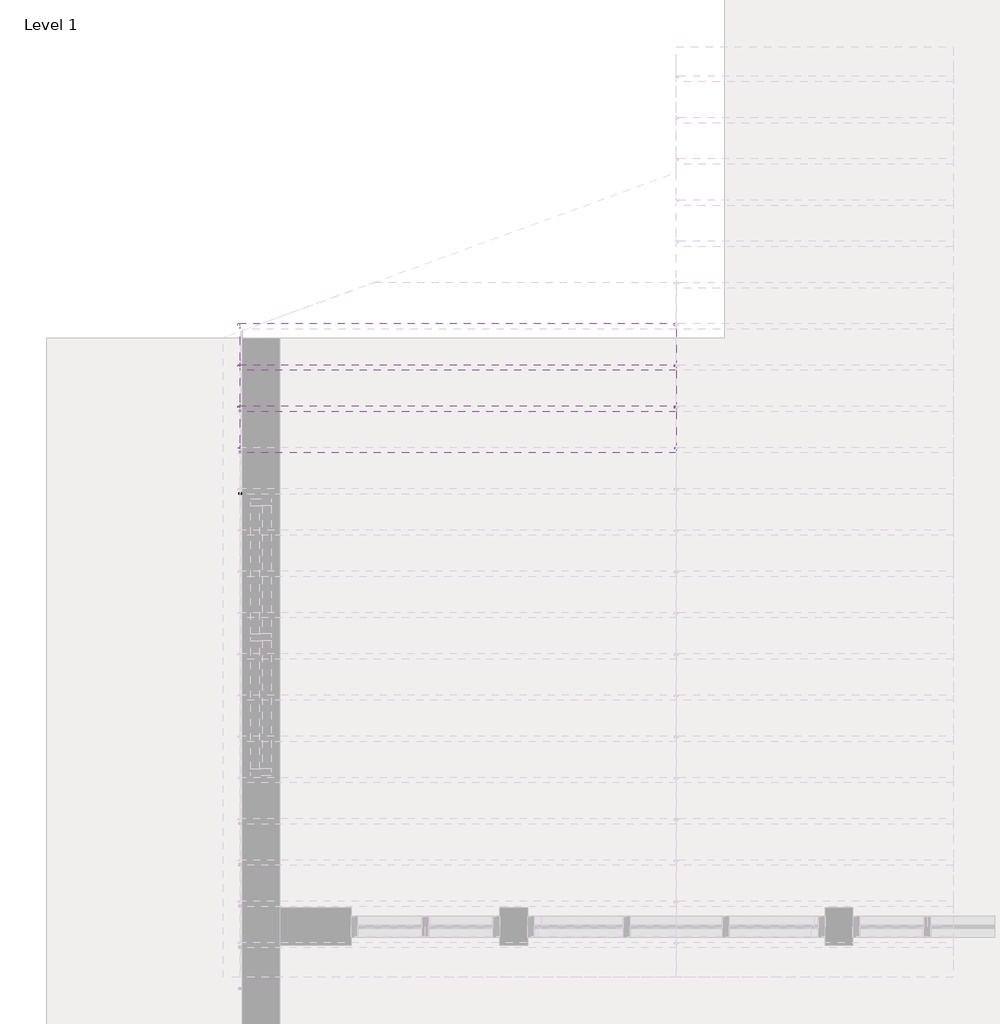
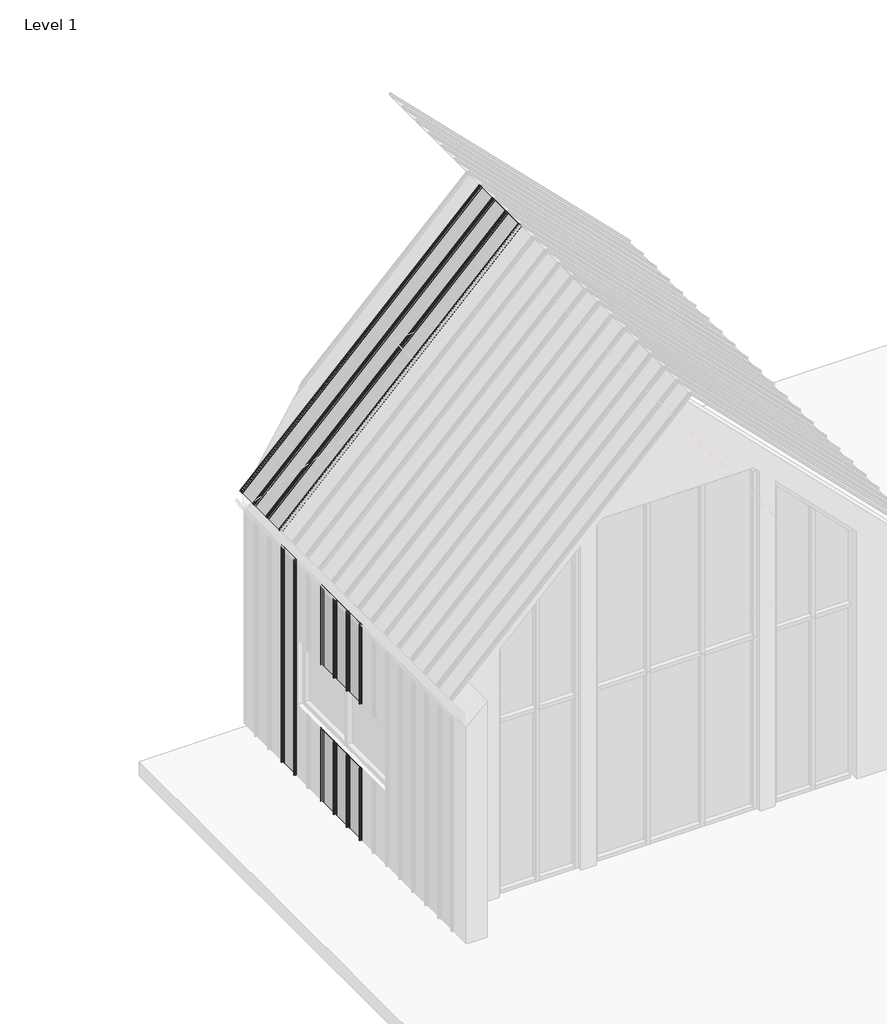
# One storey, part 4 of 24: 7 proxies.
"""IFC4 building model written with IfcOpenShell, lengths in millimetres."""

from ifc_helpers import new_model, si_unit, point, frame, frame_2d, origin, place, context, project, spatial, polyline, circle_curve, trimmed, segment, composite_curve, outline, extrude, transform, mapped, element, save
from components import aqua_slim_97a0cb55, aqua_slim_27351003

model = new_model("IFC4")

# Units and contexts
model_context = context("Model", 3, world=origin())
ifc_project = project(units=[si_unit("LENGTHUNIT", "METRE", prefix="MILLI")], contexts=[model_context])

# Site, building, storey
site = spatial("IfcSite", under=ifc_project)
building = spatial("IfcBuilding", under=site)
storey = spatial("IfcBuildingStorey", under=building, Name="Level 1", Elevation=0.0)

# Proxies
placement = place(None, origin())
element("IfcBuildingElementProxy", 1, Name="AQUAPLAST - Panel Dachowy i Elewacyjny Aqua Slim : Aqua Slim", ObjectType="AQUAPLAST - Panel Dachowy i Elewacyjny Aqua Slim : Aqua Slim", at=placement, inside=storey, context=model_context, shape_type="SweptSolid", body=[
    extrude(outline(polyline([(-8422.863183, 11088.1494801), (-8422.863183, 11315.3495304), (-8422.063183, 11315.3495304), (-8422.063183, 11088.1494801), (-8422.863183, 11088.1494801)])), frame((0.0, 0.0, 2498.0), z_axis=(0.0, 0.0, 1.0), x_axis=(1.0, 0.0, 0.0)), (0.0, 0.0, 1.0), 1099.0),
    extrude(outline(polyline([(-8422.863183, 11088.1494801), (-8422.863183, 11315.3495304), (-8422.063183, 11315.3495304), (-8422.063183, 11088.1494801), (-8422.863183, 11088.1494801)])), frame((0.0, 0.0, 600.0), z_axis=(0.0, 0.0, 1.0), x_axis=(1.0, 0.0, 0.0)), (0.0, 0.0, 1.0), 998.0),
    extrude(outline(composite_curve([segment(polyline([(-8422.063183, 11088.1494801), (-8422.8632432, 11084.6494801), (-8422.8632432, 11060.7495553)]), True, "CONTINUOUS"), segment(trimmed(circle_curve(frame_2d((-8423.363153, 11060.7495553)), 0.4999098), [point((-8422.8632432, 11060.7495553))], [point((-8423.363153, 11060.2496455))], False, "CARTESIAN"), True, "CONTINUOUS"), segment(polyline([(-8423.363153, 11060.2496455), (-8445.7635025, 11060.2496455)]), True, "CONTINUOUS"), segment(trimmed(circle_curve(frame_2d((-8445.7635025, 11059.7493222)), 0.5003233), [point((-8445.7635025, 11060.2496455))], [point((-8446.2638258, 11059.7493222))], True, "CARTESIAN"), True, "CONTINUOUS"), segment(polyline([(-8446.2638258, 11059.7493222), (-8446.2638258, 11049.2528028)]), True, "CONTINUOUS"), segment(trimmed(circle_curve(frame_2d((-8445.7625421, 11049.2528028)), 0.5012837), [point((-8446.2638258, 11049.2528028))], [point((-8445.7625421, 11048.7515191))], True, "CARTESIAN"), True, "CONTINUOUS"), segment(polyline([(-8445.7625421, 11048.7515191), (-8431.8481949, 11048.7515191)]), True, "CONTINUOUS"), segment(trimmed(circle_curve(frame_2d((-8431.8481949, 11049.6955317)), 0.9440125), [point((-8431.8481949, 11048.7515191))], [point((-8431.0110473, 11049.259248))], True, "CARTESIAN"), True, "CONTINUOUS"), segment(trimmed(circle_curve(frame_2d((-8427.4769676, 11048.7302878)), 3.5734462), [point((-8431.0110473, 11049.259248))], [point((-8423.9035214, 11048.7302878))], False, "CARTESIAN"), True, "CONTINUOUS"), segment(polyline([(-8423.9035214, 11048.7302878), (-8424.7037623, 11048.7302878)]), True, "CONTINUOUS"), segment(trimmed(circle_curve(frame_2d((-8427.4479694, 11048.7302878)), 2.7442071), [point((-8424.7037623, 11048.7302878))], [point((-8430.1921764, 11048.7302878))], True, "CARTESIAN"), True, "CONTINUOUS"), segment(trimmed(circle_curve(frame_2d((-8430.8671054, 11048.7244344)), 0.6749543), [point((-8430.1921764, 11048.7302878))], [point((-8430.8671054, 11048.0494801))], False, "CARTESIAN"), True, "CONTINUOUS"), segment(polyline([(-8430.8671054, 11048.0494801), (-8446.563183, 11048.0494801)]), True, "CONTINUOUS"), segment(trimmed(circle_curve(frame_2d((-8446.563183, 11048.5494801)), 0.5), [point((-8446.563183, 11048.0494801))], [point((-8447.063183, 11048.5494801))], False, "CARTESIAN"), True, "CONTINUOUS"), segment(polyline([(-8447.063183, 11048.5494801), (-8447.063183, 11060.5494801)]), True, "CONTINUOUS"), segment(trimmed(circle_curve(frame_2d((-8446.563183, 11060.5494801)), 0.5), [point((-8447.063183, 11060.5494801))], [point((-8446.563183, 11061.0494801))], False, "CARTESIAN"), True, "CONTINUOUS"), segment(polyline([(-8446.563183, 11061.0494801), (-8424.163183, 11061.0494801)]), True, "CONTINUOUS"), segment(trimmed(circle_curve(frame_2d((-8424.163183, 11061.5494801)), 0.5), [point((-8424.163183, 11061.0494801))], [point((-8423.663183, 11061.5494801))], True, "CARTESIAN"), True, "CONTINUOUS"), segment(polyline([(-8423.663183, 11061.5494801), (-8423.663183, 11084.6494801), (-8422.863183, 11088.1494801), (-8422.063183, 11088.1494801)]), True, "CONTINUOUS")], self_intersect=False)), frame((0.0, 0.0, 2498.0), z_axis=(0.0, 0.0, 1.0), x_axis=(1.0, 0.0, 0.0)), (0.0, 0.0, 1.0), 1099.0),
    extrude(outline(composite_curve([segment(polyline([(-8423.663183, 11084.6494801), (-8422.863183, 11088.1494801), (-8422.063183, 11088.1494801), (-8422.8632432, 11084.6494801), (-8422.8632432, 11060.7495553)]), True, "CONTINUOUS"), segment(trimmed(circle_curve(frame_2d((-8423.363153, 11060.7495553)), 0.4999098), [point((-8422.8632432, 11060.7495553))], [point((-8423.363153, 11060.2496455))], False, "CARTESIAN"), True, "CONTINUOUS"), segment(polyline([(-8423.363153, 11060.2496455), (-8445.7635025, 11060.2496455)]), True, "CONTINUOUS"), segment(trimmed(circle_curve(frame_2d((-8445.7635025, 11059.7493222)), 0.5003233), [point((-8445.7635025, 11060.2496455))], [point((-8446.2638258, 11059.7493222))], True, "CARTESIAN"), True, "CONTINUOUS"), segment(polyline([(-8446.2638258, 11059.7493222), (-8446.2638258, 11049.2528028)]), True, "CONTINUOUS"), segment(trimmed(circle_curve(frame_2d((-8445.7625421, 11049.2528028)), 0.5012837), [point((-8446.2638258, 11049.2528028))], [point((-8445.7625421, 11048.7515191))], True, "CARTESIAN"), True, "CONTINUOUS"), segment(polyline([(-8445.7625421, 11048.7515191), (-8431.8481949, 11048.7515191)]), True, "CONTINUOUS"), segment(trimmed(circle_curve(frame_2d((-8431.8481949, 11049.6955317)), 0.9440125), [point((-8431.8481949, 11048.7515191))], [point((-8431.0110473, 11049.259248))], True, "CARTESIAN"), True, "CONTINUOUS"), segment(trimmed(circle_curve(frame_2d((-8427.4769676, 11048.7302878)), 3.5734462), [point((-8431.0110473, 11049.259248))], [point((-8423.9035214, 11048.7302878))], False, "CARTESIAN"), True, "CONTINUOUS"), segment(polyline([(-8423.9035214, 11048.7302878), (-8424.7037623, 11048.7302878)]), True, "CONTINUOUS"), segment(trimmed(circle_curve(frame_2d((-8427.4479694, 11048.7302878)), 2.7442071), [point((-8424.7037623, 11048.7302878))], [point((-8430.1921764, 11048.7302878))], True, "CARTESIAN"), True, "CONTINUOUS"), segment(trimmed(circle_curve(frame_2d((-8430.8671054, 11048.7244344)), 0.6749543), [point((-8430.1921764, 11048.7302878))], [point((-8430.8671054, 11048.0494801))], False, "CARTESIAN"), True, "CONTINUOUS"), segment(polyline([(-8430.8671054, 11048.0494801), (-8446.563183, 11048.0494801)]), True, "CONTINUOUS"), segment(trimmed(circle_curve(frame_2d((-8446.563183, 11048.5494801)), 0.5), [point((-8446.563183, 11048.0494801))], [point((-8447.063183, 11048.5494801))], False, "CARTESIAN"), True, "CONTINUOUS"), segment(polyline([(-8447.063183, 11048.5494801), (-8447.063183, 11060.5494801)]), True, "CONTINUOUS"), segment(trimmed(circle_curve(frame_2d((-8446.563183, 11060.5494801)), 0.5), [point((-8447.063183, 11060.5494801))], [point((-8446.563183, 11061.0494801))], False, "CARTESIAN"), True, "CONTINUOUS"), segment(polyline([(-8446.563183, 11061.0494801), (-8424.163183, 11061.0494801)]), True, "CONTINUOUS"), segment(trimmed(circle_curve(frame_2d((-8424.163183, 11061.5494801)), 0.5), [point((-8424.163183, 11061.0494801))], [point((-8423.663183, 11061.5494801))], True, "CARTESIAN"), True, "CONTINUOUS"), segment(polyline([(-8423.663183, 11061.5494801), (-8423.663183, 11084.6494801)]), True, "CONTINUOUS")], self_intersect=False)), frame((0.0, 0.0, 600.0), z_axis=(0.0, 0.0, 1.0), x_axis=(1.0, 0.0, 0.0)), (0.0, 0.0, 1.0), 998.0),
    extrude(outline(composite_curve([segment(polyline([(-8422.863183, 11388.0494801), (-8422.063183, 11388.0494801), (-8422.063183, 11357.7217474)]), True, "CONTINUOUS"), segment(trimmed(circle_curve(frame_2d((-8422.8032039, 11357.7217474)), 0.7400208), [point((-8422.063183, 11357.7217474))], [point((-8422.6873647, 11356.9908492))], False, "CARTESIAN"), True, "CONTINUOUS"), segment(polyline([(-8422.6873647, 11356.9908492), (-8440.5435157, 11354.1608498)]), True, "CONTINUOUS"), segment(trimmed(circle_curve(frame_2d((-8440.2450447, 11352.277619)), 1.9067363), [point((-8440.5435157, 11354.1608498))], [point((-8441.1984129, 11350.626337))], True, "CARTESIAN"), True, "CONTINUOUS"), segment(polyline([(-8441.1984129, 11350.626337), (-8433.9565909, 11347.7145733)]), True, "CONTINUOUS"), segment(trimmed(circle_curve(frame_2d((-8433.3308509, 11349.2708458)), 1.6773594), [point((-8433.9565909, 11347.7145733))], [point((-8431.8145704, 11348.5536094))], True, "CARTESIAN"), True, "CONTINUOUS"), segment(trimmed(circle_curve(frame_2d((-8427.5646191, 11346.5432822)), 4.7014361), [point((-8431.8145704, 11348.5536094))], [point((-8422.863183, 11346.5432822))], False, "CARTESIAN"), True, "CONTINUOUS"), segment(polyline([(-8422.863183, 11346.5432822), (-8422.863183, 11318.8495304), (-8422.063183, 11315.3495304), (-8422.863183, 11315.3495304), (-8423.663183, 11318.8495304), (-8423.663183, 11346.7024576)]), True, "CONTINUOUS"), segment(trimmed(circle_curve(frame_2d((-8427.5299142, 11346.7024576)), 3.8667311), [point((-8423.663183, 11346.7024576))], [point((-8431.0655924, 11348.2678934))], True, "CARTESIAN"), True, "CONTINUOUS"), segment(trimmed(circle_curve(frame_2d((-8433.3308509, 11349.2708458)), 2.4773594), [point((-8431.0655924, 11348.2678934))], [point((-8434.257346, 11346.9732565))], False, "CARTESIAN"), True, "CONTINUOUS"), segment(polyline([(-8434.257346, 11346.9732565), (-8441.5984129, 11349.9335166)]), True, "CONTINUOUS"), segment(trimmed(circle_curve(frame_2d((-8440.2450447, 11352.277619)), 2.7067363), [point((-8441.5984129, 11349.9335166))], [point((-8440.8285384, 11354.920715))], False, "CARTESIAN"), True, "CONTINUOUS"), segment(polyline([(-8440.8285384, 11354.920715), (-8423.4133146, 11357.9536717)]), True, "CONTINUOUS"), segment(trimmed(circle_curve(frame_2d((-8423.5272506, 11358.6078921)), 0.6640676), [point((-8423.4133146, 11357.9536717))], [point((-8422.863183, 11358.6078921))], True, "CARTESIAN"), True, "CONTINUOUS"), segment(polyline([(-8422.863183, 11358.6078921), (-8422.863183, 11388.0494801)]), True, "CONTINUOUS")], self_intersect=False)), frame((0.0, 0.0, 2498.0), z_axis=(0.0, 0.0, 1.0), x_axis=(1.0, 0.0, 0.0)), (0.0, 0.0, 1.0), 1099.0),
    extrude(outline(composite_curve([segment(polyline([(-8422.863183, 11388.0494801), (-8422.063183, 11388.0494801), (-8422.063183, 11357.7217474)]), True, "CONTINUOUS"), segment(trimmed(circle_curve(frame_2d((-8422.8032039, 11357.7217474)), 0.7400208), [point((-8422.063183, 11357.7217474))], [point((-8422.6873647, 11356.9908492))], False, "CARTESIAN"), True, "CONTINUOUS"), segment(polyline([(-8422.6873647, 11356.9908492), (-8440.5435157, 11354.1608498)]), True, "CONTINUOUS"), segment(trimmed(circle_curve(frame_2d((-8440.2450447, 11352.277619)), 1.9067363), [point((-8440.5435157, 11354.1608498))], [point((-8441.1984129, 11350.626337))], True, "CARTESIAN"), True, "CONTINUOUS"), segment(polyline([(-8441.1984129, 11350.626337), (-8433.9565909, 11347.7145733)]), True, "CONTINUOUS"), segment(trimmed(circle_curve(frame_2d((-8433.3308509, 11349.2708458)), 1.6773594), [point((-8433.9565909, 11347.7145733))], [point((-8431.8145704, 11348.5536094))], True, "CARTESIAN"), True, "CONTINUOUS"), segment(trimmed(circle_curve(frame_2d((-8427.5646191, 11346.5432822)), 4.7014361), [point((-8431.8145704, 11348.5536094))], [point((-8422.863183, 11346.5432822))], False, "CARTESIAN"), True, "CONTINUOUS"), segment(polyline([(-8422.863183, 11346.5432822), (-8422.863183, 11318.8495304), (-8422.063183, 11315.3495304), (-8422.863183, 11315.3495304), (-8423.663183, 11318.8495304), (-8423.663183, 11346.7024576)]), True, "CONTINUOUS"), segment(trimmed(circle_curve(frame_2d((-8427.5299142, 11346.7024576)), 3.8667311), [point((-8423.663183, 11346.7024576))], [point((-8431.0655924, 11348.2678934))], True, "CARTESIAN"), True, "CONTINUOUS"), segment(trimmed(circle_curve(frame_2d((-8433.3308509, 11349.2708458)), 2.4773594), [point((-8431.0655924, 11348.2678934))], [point((-8434.257346, 11346.9732565))], False, "CARTESIAN"), True, "CONTINUOUS"), segment(polyline([(-8434.257346, 11346.9732565), (-8441.5984129, 11349.9335166)]), True, "CONTINUOUS"), segment(trimmed(circle_curve(frame_2d((-8440.2450447, 11352.277619)), 2.7067363), [point((-8441.5984129, 11349.9335166))], [point((-8440.8285384, 11354.920715))], False, "CARTESIAN"), True, "CONTINUOUS"), segment(polyline([(-8440.8285384, 11354.920715), (-8423.4133146, 11357.9536717)]), True, "CONTINUOUS"), segment(trimmed(circle_curve(frame_2d((-8423.5272506, 11358.6078921)), 0.6640676), [point((-8423.4133146, 11357.9536717))], [point((-8422.863183, 11358.6078921))], True, "CARTESIAN"), True, "CONTINUOUS"), segment(polyline([(-8422.863183, 11358.6078921), (-8422.863183, 11388.0494801)]), True, "CONTINUOUS")], self_intersect=False)), frame((0.0, 0.0, 600.0), z_axis=(0.0, 0.0, 1.0), x_axis=(1.0, 0.0, 0.0)), (0.0, 0.0, 1.0), 998.0),
])
element("IfcBuildingElementProxy", 2, Name="AQUAPLAST - Panel Dachowy i Elewacyjny Aqua Slim : Aqua Slim", ObjectType="AQUAPLAST - Panel Dachowy i Elewacyjny Aqua Slim : Aqua Slim", at=placement, inside=storey, context=model_context, shape_type="SweptSolid", body=[
    extrude(outline(polyline([(-8422.863183, 11386.1494801), (-8422.863183, 11613.3495304), (-8422.063183, 11613.3495304), (-8422.063183, 11386.1494801), (-8422.863183, 11386.1494801)])), frame((0.0, 0.0, 2498.0), z_axis=(0.0, 0.0, 1.0), x_axis=(1.0, 0.0, 0.0)), (0.0, 0.0, 1.0), 1099.0),
    extrude(outline(polyline([(-8422.863183, 11386.1494801), (-8422.863183, 11613.3495304), (-8422.063183, 11613.3495304), (-8422.063183, 11386.1494801), (-8422.863183, 11386.1494801)])), frame((0.0, 0.0, 600.0), z_axis=(0.0, 0.0, 1.0), x_axis=(1.0, 0.0, 0.0)), (0.0, 0.0, 1.0), 998.0),
    extrude(outline(composite_curve([segment(polyline([(-8422.063183, 11386.1494801), (-8422.8632432, 11382.6494801), (-8422.8632432, 11358.7495553)]), True, "CONTINUOUS"), segment(trimmed(circle_curve(frame_2d((-8423.363153, 11358.7495553)), 0.4999098), [point((-8422.8632432, 11358.7495553))], [point((-8423.363153, 11358.2496455))], False, "CARTESIAN"), True, "CONTINUOUS"), segment(polyline([(-8423.363153, 11358.2496455), (-8445.7635025, 11358.2496455)]), True, "CONTINUOUS"), segment(trimmed(circle_curve(frame_2d((-8445.7635025, 11357.7493222)), 0.5003233), [point((-8445.7635025, 11358.2496455))], [point((-8446.2638258, 11357.7493222))], True, "CARTESIAN"), True, "CONTINUOUS"), segment(polyline([(-8446.2638258, 11357.7493222), (-8446.2638258, 11347.2528028)]), True, "CONTINUOUS"), segment(trimmed(circle_curve(frame_2d((-8445.7625421, 11347.2528028)), 0.5012837), [point((-8446.2638258, 11347.2528028))], [point((-8445.7625421, 11346.7515191))], True, "CARTESIAN"), True, "CONTINUOUS"), segment(polyline([(-8445.7625421, 11346.7515191), (-8431.8481949, 11346.7515191)]), True, "CONTINUOUS"), segment(trimmed(circle_curve(frame_2d((-8431.8481949, 11347.6955317)), 0.9440125), [point((-8431.8481949, 11346.7515191))], [point((-8431.0110473, 11347.259248))], True, "CARTESIAN"), True, "CONTINUOUS"), segment(trimmed(circle_curve(frame_2d((-8427.4769676, 11346.7302878)), 3.5734462), [point((-8431.0110473, 11347.259248))], [point((-8423.9035214, 11346.7302878))], False, "CARTESIAN"), True, "CONTINUOUS"), segment(polyline([(-8423.9035214, 11346.7302878), (-8424.7037623, 11346.7302878)]), True, "CONTINUOUS"), segment(trimmed(circle_curve(frame_2d((-8427.4479694, 11346.7302878)), 2.7442071), [point((-8424.7037623, 11346.7302878))], [point((-8430.1921764, 11346.7302878))], True, "CARTESIAN"), True, "CONTINUOUS"), segment(trimmed(circle_curve(frame_2d((-8430.8671054, 11346.7244344)), 0.6749543), [point((-8430.1921764, 11346.7302878))], [point((-8430.8671054, 11346.0494801))], False, "CARTESIAN"), True, "CONTINUOUS"), segment(polyline([(-8430.8671054, 11346.0494801), (-8446.563183, 11346.0494801)]), True, "CONTINUOUS"), segment(trimmed(circle_curve(frame_2d((-8446.563183, 11346.5494801)), 0.5), [point((-8446.563183, 11346.0494801))], [point((-8447.063183, 11346.5494801))], False, "CARTESIAN"), True, "CONTINUOUS"), segment(polyline([(-8447.063183, 11346.5494801), (-8447.063183, 11358.5494801)]), True, "CONTINUOUS"), segment(trimmed(circle_curve(frame_2d((-8446.563183, 11358.5494801)), 0.5), [point((-8447.063183, 11358.5494801))], [point((-8446.563183, 11359.0494801))], False, "CARTESIAN"), True, "CONTINUOUS"), segment(polyline([(-8446.563183, 11359.0494801), (-8424.163183, 11359.0494801)]), True, "CONTINUOUS"), segment(trimmed(circle_curve(frame_2d((-8424.163183, 11359.5494801)), 0.5), [point((-8424.163183, 11359.0494801))], [point((-8423.663183, 11359.5494801))], True, "CARTESIAN"), True, "CONTINUOUS"), segment(polyline([(-8423.663183, 11359.5494801), (-8423.663183, 11382.6494801), (-8422.863183, 11386.1494801), (-8422.063183, 11386.1494801)]), True, "CONTINUOUS")], self_intersect=False)), frame((0.0, 0.0, 2498.0), z_axis=(0.0, 0.0, 1.0), x_axis=(1.0, 0.0, 0.0)), (0.0, 0.0, 1.0), 1099.0),
    extrude(outline(composite_curve([segment(polyline([(-8423.663183, 11382.6494801), (-8422.863183, 11386.1494801), (-8422.063183, 11386.1494801), (-8422.8632432, 11382.6494801), (-8422.8632432, 11358.7495553)]), True, "CONTINUOUS"), segment(trimmed(circle_curve(frame_2d((-8423.363153, 11358.7495553)), 0.4999098), [point((-8422.8632432, 11358.7495553))], [point((-8423.363153, 11358.2496455))], False, "CARTESIAN"), True, "CONTINUOUS"), segment(polyline([(-8423.363153, 11358.2496455), (-8445.7635025, 11358.2496455)]), True, "CONTINUOUS"), segment(trimmed(circle_curve(frame_2d((-8445.7635025, 11357.7493222)), 0.5003233), [point((-8445.7635025, 11358.2496455))], [point((-8446.2638258, 11357.7493222))], True, "CARTESIAN"), True, "CONTINUOUS"), segment(polyline([(-8446.2638258, 11357.7493222), (-8446.2638258, 11347.2528028)]), True, "CONTINUOUS"), segment(trimmed(circle_curve(frame_2d((-8445.7625421, 11347.2528028)), 0.5012837), [point((-8446.2638258, 11347.2528028))], [point((-8445.7625421, 11346.7515191))], True, "CARTESIAN"), True, "CONTINUOUS"), segment(polyline([(-8445.7625421, 11346.7515191), (-8431.8481949, 11346.7515191)]), True, "CONTINUOUS"), segment(trimmed(circle_curve(frame_2d((-8431.8481949, 11347.6955317)), 0.9440125), [point((-8431.8481949, 11346.7515191))], [point((-8431.0110473, 11347.259248))], True, "CARTESIAN"), True, "CONTINUOUS"), segment(trimmed(circle_curve(frame_2d((-8427.4769676, 11346.7302878)), 3.5734462), [point((-8431.0110473, 11347.259248))], [point((-8423.9035214, 11346.7302878))], False, "CARTESIAN"), True, "CONTINUOUS"), segment(polyline([(-8423.9035214, 11346.7302878), (-8424.7037623, 11346.7302878)]), True, "CONTINUOUS"), segment(trimmed(circle_curve(frame_2d((-8427.4479694, 11346.7302878)), 2.7442071), [point((-8424.7037623, 11346.7302878))], [point((-8430.1921764, 11346.7302878))], True, "CARTESIAN"), True, "CONTINUOUS"), segment(trimmed(circle_curve(frame_2d((-8430.8671054, 11346.7244344)), 0.6749543), [point((-8430.1921764, 11346.7302878))], [point((-8430.8671054, 11346.0494801))], False, "CARTESIAN"), True, "CONTINUOUS"), segment(polyline([(-8430.8671054, 11346.0494801), (-8446.563183, 11346.0494801)]), True, "CONTINUOUS"), segment(trimmed(circle_curve(frame_2d((-8446.563183, 11346.5494801)), 0.5), [point((-8446.563183, 11346.0494801))], [point((-8447.063183, 11346.5494801))], False, "CARTESIAN"), True, "CONTINUOUS"), segment(polyline([(-8447.063183, 11346.5494801), (-8447.063183, 11358.5494801)]), True, "CONTINUOUS"), segment(trimmed(circle_curve(frame_2d((-8446.563183, 11358.5494801)), 0.5), [point((-8447.063183, 11358.5494801))], [point((-8446.563183, 11359.0494801))], False, "CARTESIAN"), True, "CONTINUOUS"), segment(polyline([(-8446.563183, 11359.0494801), (-8424.163183, 11359.0494801)]), True, "CONTINUOUS"), segment(trimmed(circle_curve(frame_2d((-8424.163183, 11359.5494801)), 0.5), [point((-8424.163183, 11359.0494801))], [point((-8423.663183, 11359.5494801))], True, "CARTESIAN"), True, "CONTINUOUS"), segment(polyline([(-8423.663183, 11359.5494801), (-8423.663183, 11382.6494801)]), True, "CONTINUOUS")], self_intersect=False)), frame((0.0, 0.0, 600.0), z_axis=(0.0, 0.0, 1.0), x_axis=(1.0, 0.0, 0.0)), (0.0, 0.0, 1.0), 998.0),
    extrude(outline(composite_curve([segment(polyline([(-8422.863183, 11686.0494801), (-8422.063183, 11686.0494801), (-8422.063183, 11655.7217474)]), True, "CONTINUOUS"), segment(trimmed(circle_curve(frame_2d((-8422.8032039, 11655.7217474)), 0.7400208), [point((-8422.063183, 11655.7217474))], [point((-8422.6873647, 11654.9908492))], False, "CARTESIAN"), True, "CONTINUOUS"), segment(polyline([(-8422.6873647, 11654.9908492), (-8440.5435157, 11652.1608498)]), True, "CONTINUOUS"), segment(trimmed(circle_curve(frame_2d((-8440.2450447, 11650.277619)), 1.9067363), [point((-8440.5435157, 11652.1608498))], [point((-8441.1984129, 11648.626337))], True, "CARTESIAN"), True, "CONTINUOUS"), segment(polyline([(-8441.1984129, 11648.626337), (-8433.9565909, 11645.7145733)]), True, "CONTINUOUS"), segment(trimmed(circle_curve(frame_2d((-8433.3308509, 11647.2708458)), 1.6773594), [point((-8433.9565909, 11645.7145733))], [point((-8431.8145704, 11646.5536094))], True, "CARTESIAN"), True, "CONTINUOUS"), segment(trimmed(circle_curve(frame_2d((-8427.5646191, 11644.5432822)), 4.7014361), [point((-8431.8145704, 11646.5536094))], [point((-8422.863183, 11644.5432822))], False, "CARTESIAN"), True, "CONTINUOUS"), segment(polyline([(-8422.863183, 11644.5432822), (-8422.863183, 11616.8495304), (-8422.063183, 11613.3495304), (-8422.863183, 11613.3495304), (-8423.663183, 11616.8495304), (-8423.663183, 11644.7024576)]), True, "CONTINUOUS"), segment(trimmed(circle_curve(frame_2d((-8427.5299142, 11644.7024576)), 3.8667311), [point((-8423.663183, 11644.7024576))], [point((-8431.0655924, 11646.2678934))], True, "CARTESIAN"), True, "CONTINUOUS"), segment(trimmed(circle_curve(frame_2d((-8433.3308509, 11647.2708458)), 2.4773594), [point((-8431.0655924, 11646.2678934))], [point((-8434.257346, 11644.9732565))], False, "CARTESIAN"), True, "CONTINUOUS"), segment(polyline([(-8434.257346, 11644.9732565), (-8441.5984129, 11647.9335166)]), True, "CONTINUOUS"), segment(trimmed(circle_curve(frame_2d((-8440.2450447, 11650.277619)), 2.7067363), [point((-8441.5984129, 11647.9335166))], [point((-8440.8285384, 11652.920715))], False, "CARTESIAN"), True, "CONTINUOUS"), segment(polyline([(-8440.8285384, 11652.920715), (-8423.4133146, 11655.9536717)]), True, "CONTINUOUS"), segment(trimmed(circle_curve(frame_2d((-8423.5272506, 11656.6078921)), 0.6640676), [point((-8423.4133146, 11655.9536717))], [point((-8422.863183, 11656.6078921))], True, "CARTESIAN"), True, "CONTINUOUS"), segment(polyline([(-8422.863183, 11656.6078921), (-8422.863183, 11686.0494801)]), True, "CONTINUOUS")], self_intersect=False)), frame((0.0, 0.0, 2498.0), z_axis=(0.0, 0.0, 1.0), x_axis=(1.0, 0.0, 0.0)), (0.0, 0.0, 1.0), 1099.0),
    extrude(outline(composite_curve([segment(polyline([(-8422.863183, 11686.0494801), (-8422.063183, 11686.0494801), (-8422.063183, 11655.7217474)]), True, "CONTINUOUS"), segment(trimmed(circle_curve(frame_2d((-8422.8032039, 11655.7217474)), 0.7400208), [point((-8422.063183, 11655.7217474))], [point((-8422.6873647, 11654.9908492))], False, "CARTESIAN"), True, "CONTINUOUS"), segment(polyline([(-8422.6873647, 11654.9908492), (-8440.5435157, 11652.1608498)]), True, "CONTINUOUS"), segment(trimmed(circle_curve(frame_2d((-8440.2450447, 11650.277619)), 1.9067363), [point((-8440.5435157, 11652.1608498))], [point((-8441.1984129, 11648.626337))], True, "CARTESIAN"), True, "CONTINUOUS"), segment(polyline([(-8441.1984129, 11648.626337), (-8433.9565909, 11645.7145733)]), True, "CONTINUOUS"), segment(trimmed(circle_curve(frame_2d((-8433.3308509, 11647.2708458)), 1.6773594), [point((-8433.9565909, 11645.7145733))], [point((-8431.8145704, 11646.5536094))], True, "CARTESIAN"), True, "CONTINUOUS"), segment(trimmed(circle_curve(frame_2d((-8427.5646191, 11644.5432822)), 4.7014361), [point((-8431.8145704, 11646.5536094))], [point((-8422.863183, 11644.5432822))], False, "CARTESIAN"), True, "CONTINUOUS"), segment(polyline([(-8422.863183, 11644.5432822), (-8422.863183, 11616.8495304), (-8422.063183, 11613.3495304), (-8422.863183, 11613.3495304), (-8423.663183, 11616.8495304), (-8423.663183, 11644.7024576)]), True, "CONTINUOUS"), segment(trimmed(circle_curve(frame_2d((-8427.5299142, 11644.7024576)), 3.8667311), [point((-8423.663183, 11644.7024576))], [point((-8431.0655924, 11646.2678934))], True, "CARTESIAN"), True, "CONTINUOUS"), segment(trimmed(circle_curve(frame_2d((-8433.3308509, 11647.2708458)), 2.4773594), [point((-8431.0655924, 11646.2678934))], [point((-8434.257346, 11644.9732565))], False, "CARTESIAN"), True, "CONTINUOUS"), segment(polyline([(-8434.257346, 11644.9732565), (-8441.5984129, 11647.9335166)]), True, "CONTINUOUS"), segment(trimmed(circle_curve(frame_2d((-8440.2450447, 11650.277619)), 2.7067363), [point((-8441.5984129, 11647.9335166))], [point((-8440.8285384, 11652.920715))], False, "CARTESIAN"), True, "CONTINUOUS"), segment(polyline([(-8440.8285384, 11652.920715), (-8423.4133146, 11655.9536717)]), True, "CONTINUOUS"), segment(trimmed(circle_curve(frame_2d((-8423.5272506, 11656.6078921)), 0.6640676), [point((-8423.4133146, 11655.9536717))], [point((-8422.863183, 11656.6078921))], True, "CARTESIAN"), True, "CONTINUOUS"), segment(polyline([(-8422.863183, 11656.6078921), (-8422.863183, 11686.0494801)]), True, "CONTINUOUS")], self_intersect=False)), frame((0.0, 0.0, 600.0), z_axis=(0.0, 0.0, 1.0), x_axis=(1.0, 0.0, 0.0)), (0.0, 0.0, 1.0), 998.0),
])
element("IfcBuildingElementProxy", 3, Name="AQUAPLAST - Panel Dachowy i Elewacyjny Aqua Slim : Aqua Slim", ObjectType="AQUAPLAST - Panel Dachowy i Elewacyjny Aqua Slim : Aqua Slim", at=placement, inside=storey, context=model_context, shape_type="SweptSolid", body=[
    extrude(outline(polyline([(-8422.863183, 11684.1494801), (-8422.863183, 11911.3495304), (-8422.063183, 11911.3495304), (-8422.063183, 11684.1494801), (-8422.863183, 11684.1494801)])), frame((0.0, 0.0, 2498.0), z_axis=(0.0, 0.0, 1.0), x_axis=(1.0, 0.0, 0.0)), (0.0, 0.0, 1.0), 1099.0),
    extrude(outline(polyline([(-8422.863183, 11684.1494801), (-8422.863183, 11911.3495304), (-8422.063183, 11911.3495304), (-8422.063183, 11684.1494801), (-8422.863183, 11684.1494801)])), frame((0.0, 0.0, 600.0), z_axis=(0.0, 0.0, 1.0), x_axis=(1.0, 0.0, 0.0)), (0.0, 0.0, 1.0), 998.0),
    extrude(outline(composite_curve([segment(polyline([(-8422.063183, 11684.1494801), (-8422.8632432, 11680.6494801), (-8422.8632432, 11656.7495553)]), True, "CONTINUOUS"), segment(trimmed(circle_curve(frame_2d((-8423.363153, 11656.7495553)), 0.4999098), [point((-8422.8632432, 11656.7495553))], [point((-8423.363153, 11656.2496455))], False, "CARTESIAN"), True, "CONTINUOUS"), segment(polyline([(-8423.363153, 11656.2496455), (-8445.7635025, 11656.2496455)]), True, "CONTINUOUS"), segment(trimmed(circle_curve(frame_2d((-8445.7635025, 11655.7493222)), 0.5003233), [point((-8445.7635025, 11656.2496455))], [point((-8446.2638258, 11655.7493222))], True, "CARTESIAN"), True, "CONTINUOUS"), segment(polyline([(-8446.2638258, 11655.7493222), (-8446.2638258, 11645.2528028)]), True, "CONTINUOUS"), segment(trimmed(circle_curve(frame_2d((-8445.7625421, 11645.2528028)), 0.5012837), [point((-8446.2638258, 11645.2528028))], [point((-8445.7625421, 11644.7515191))], True, "CARTESIAN"), True, "CONTINUOUS"), segment(polyline([(-8445.7625421, 11644.7515191), (-8431.8481949, 11644.7515191)]), True, "CONTINUOUS"), segment(trimmed(circle_curve(frame_2d((-8431.8481949, 11645.6955317)), 0.9440125), [point((-8431.8481949, 11644.7515191))], [point((-8431.0110473, 11645.259248))], True, "CARTESIAN"), True, "CONTINUOUS"), segment(trimmed(circle_curve(frame_2d((-8427.4769676, 11644.7302878)), 3.5734462), [point((-8431.0110473, 11645.259248))], [point((-8423.9035214, 11644.7302878))], False, "CARTESIAN"), True, "CONTINUOUS"), segment(polyline([(-8423.9035214, 11644.7302878), (-8424.7037623, 11644.7302878)]), True, "CONTINUOUS"), segment(trimmed(circle_curve(frame_2d((-8427.4479694, 11644.7302878)), 2.7442071), [point((-8424.7037623, 11644.7302878))], [point((-8430.1921764, 11644.7302878))], True, "CARTESIAN"), True, "CONTINUOUS"), segment(trimmed(circle_curve(frame_2d((-8430.8671054, 11644.7244344)), 0.6749543), [point((-8430.1921764, 11644.7302878))], [point((-8430.8671054, 11644.0494801))], False, "CARTESIAN"), True, "CONTINUOUS"), segment(polyline([(-8430.8671054, 11644.0494801), (-8446.563183, 11644.0494801)]), True, "CONTINUOUS"), segment(trimmed(circle_curve(frame_2d((-8446.563183, 11644.5494801)), 0.5), [point((-8446.563183, 11644.0494801))], [point((-8447.063183, 11644.5494801))], False, "CARTESIAN"), True, "CONTINUOUS"), segment(polyline([(-8447.063183, 11644.5494801), (-8447.063183, 11656.5494801)]), True, "CONTINUOUS"), segment(trimmed(circle_curve(frame_2d((-8446.563183, 11656.5494801)), 0.5), [point((-8447.063183, 11656.5494801))], [point((-8446.563183, 11657.0494801))], False, "CARTESIAN"), True, "CONTINUOUS"), segment(polyline([(-8446.563183, 11657.0494801), (-8424.163183, 11657.0494801)]), True, "CONTINUOUS"), segment(trimmed(circle_curve(frame_2d((-8424.163183, 11657.5494801)), 0.5), [point((-8424.163183, 11657.0494801))], [point((-8423.663183, 11657.5494801))], True, "CARTESIAN"), True, "CONTINUOUS"), segment(polyline([(-8423.663183, 11657.5494801), (-8423.663183, 11680.6494801), (-8422.863183, 11684.1494801), (-8422.063183, 11684.1494801)]), True, "CONTINUOUS")], self_intersect=False)), frame((0.0, 0.0, 2498.0), z_axis=(0.0, 0.0, 1.0), x_axis=(1.0, 0.0, 0.0)), (0.0, 0.0, 1.0), 1099.0),
    extrude(outline(composite_curve([segment(polyline([(-8423.663183, 11680.6494801), (-8422.863183, 11684.1494801), (-8422.063183, 11684.1494801), (-8422.8632432, 11680.6494801), (-8422.8632432, 11656.7495553)]), True, "CONTINUOUS"), segment(trimmed(circle_curve(frame_2d((-8423.363153, 11656.7495553)), 0.4999098), [point((-8422.8632432, 11656.7495553))], [point((-8423.363153, 11656.2496455))], False, "CARTESIAN"), True, "CONTINUOUS"), segment(polyline([(-8423.363153, 11656.2496455), (-8445.7635025, 11656.2496455)]), True, "CONTINUOUS"), segment(trimmed(circle_curve(frame_2d((-8445.7635025, 11655.7493222)), 0.5003233), [point((-8445.7635025, 11656.2496455))], [point((-8446.2638258, 11655.7493222))], True, "CARTESIAN"), True, "CONTINUOUS"), segment(polyline([(-8446.2638258, 11655.7493222), (-8446.2638258, 11645.2528028)]), True, "CONTINUOUS"), segment(trimmed(circle_curve(frame_2d((-8445.7625421, 11645.2528028)), 0.5012837), [point((-8446.2638258, 11645.2528028))], [point((-8445.7625421, 11644.7515191))], True, "CARTESIAN"), True, "CONTINUOUS"), segment(polyline([(-8445.7625421, 11644.7515191), (-8431.8481949, 11644.7515191)]), True, "CONTINUOUS"), segment(trimmed(circle_curve(frame_2d((-8431.8481949, 11645.6955317)), 0.9440125), [point((-8431.8481949, 11644.7515191))], [point((-8431.0110473, 11645.259248))], True, "CARTESIAN"), True, "CONTINUOUS"), segment(trimmed(circle_curve(frame_2d((-8427.4769676, 11644.7302878)), 3.5734462), [point((-8431.0110473, 11645.259248))], [point((-8423.9035214, 11644.7302878))], False, "CARTESIAN"), True, "CONTINUOUS"), segment(polyline([(-8423.9035214, 11644.7302878), (-8424.7037623, 11644.7302878)]), True, "CONTINUOUS"), segment(trimmed(circle_curve(frame_2d((-8427.4479694, 11644.7302878)), 2.7442071), [point((-8424.7037623, 11644.7302878))], [point((-8430.1921764, 11644.7302878))], True, "CARTESIAN"), True, "CONTINUOUS"), segment(trimmed(circle_curve(frame_2d((-8430.8671054, 11644.7244344)), 0.6749543), [point((-8430.1921764, 11644.7302878))], [point((-8430.8671054, 11644.0494801))], False, "CARTESIAN"), True, "CONTINUOUS"), segment(polyline([(-8430.8671054, 11644.0494801), (-8446.563183, 11644.0494801)]), True, "CONTINUOUS"), segment(trimmed(circle_curve(frame_2d((-8446.563183, 11644.5494801)), 0.5), [point((-8446.563183, 11644.0494801))], [point((-8447.063183, 11644.5494801))], False, "CARTESIAN"), True, "CONTINUOUS"), segment(polyline([(-8447.063183, 11644.5494801), (-8447.063183, 11656.5494801)]), True, "CONTINUOUS"), segment(trimmed(circle_curve(frame_2d((-8446.563183, 11656.5494801)), 0.5), [point((-8447.063183, 11656.5494801))], [point((-8446.563183, 11657.0494801))], False, "CARTESIAN"), True, "CONTINUOUS"), segment(polyline([(-8446.563183, 11657.0494801), (-8424.163183, 11657.0494801)]), True, "CONTINUOUS"), segment(trimmed(circle_curve(frame_2d((-8424.163183, 11657.5494801)), 0.5), [point((-8424.163183, 11657.0494801))], [point((-8423.663183, 11657.5494801))], True, "CARTESIAN"), True, "CONTINUOUS"), segment(polyline([(-8423.663183, 11657.5494801), (-8423.663183, 11680.6494801)]), True, "CONTINUOUS")], self_intersect=False)), frame((0.0, 0.0, 600.0), z_axis=(0.0, 0.0, 1.0), x_axis=(1.0, 0.0, 0.0)), (0.0, 0.0, 1.0), 998.0),
    extrude(outline(composite_curve([segment(polyline([(-8422.863183, 11984.0494801), (-8422.063183, 11984.0494801), (-8422.063183, 11953.7217474)]), True, "CONTINUOUS"), segment(trimmed(circle_curve(frame_2d((-8422.8032039, 11953.7217474)), 0.7400208), [point((-8422.063183, 11953.7217474))], [point((-8422.6873647, 11952.9908492))], False, "CARTESIAN"), True, "CONTINUOUS"), segment(polyline([(-8422.6873647, 11952.9908492), (-8440.5435157, 11950.1608498)]), True, "CONTINUOUS"), segment(trimmed(circle_curve(frame_2d((-8440.2450447, 11948.277619)), 1.9067363), [point((-8440.5435157, 11950.1608498))], [point((-8441.1984129, 11946.626337))], True, "CARTESIAN"), True, "CONTINUOUS"), segment(polyline([(-8441.1984129, 11946.626337), (-8433.9565909, 11943.7145733)]), True, "CONTINUOUS"), segment(trimmed(circle_curve(frame_2d((-8433.3308509, 11945.2708458)), 1.6773594), [point((-8433.9565909, 11943.7145733))], [point((-8431.8145704, 11944.5536094))], True, "CARTESIAN"), True, "CONTINUOUS"), segment(trimmed(circle_curve(frame_2d((-8427.5646191, 11942.5432822)), 4.7014361), [point((-8431.8145704, 11944.5536094))], [point((-8422.863183, 11942.5432822))], False, "CARTESIAN"), True, "CONTINUOUS"), segment(polyline([(-8422.863183, 11942.5432822), (-8422.863183, 11914.8495304), (-8422.063183, 11911.3495304), (-8422.863183, 11911.3495304), (-8423.663183, 11914.8495304), (-8423.663183, 11942.7024576)]), True, "CONTINUOUS"), segment(trimmed(circle_curve(frame_2d((-8427.5299142, 11942.7024576)), 3.8667311), [point((-8423.663183, 11942.7024576))], [point((-8431.0655924, 11944.2678934))], True, "CARTESIAN"), True, "CONTINUOUS"), segment(trimmed(circle_curve(frame_2d((-8433.3308509, 11945.2708458)), 2.4773594), [point((-8431.0655924, 11944.2678934))], [point((-8434.257346, 11942.9732565))], False, "CARTESIAN"), True, "CONTINUOUS"), segment(polyline([(-8434.257346, 11942.9732565), (-8441.5984129, 11945.9335166)]), True, "CONTINUOUS"), segment(trimmed(circle_curve(frame_2d((-8440.2450447, 11948.277619)), 2.7067363), [point((-8441.5984129, 11945.9335166))], [point((-8440.8285384, 11950.920715))], False, "CARTESIAN"), True, "CONTINUOUS"), segment(polyline([(-8440.8285384, 11950.920715), (-8423.4133146, 11953.9536717)]), True, "CONTINUOUS"), segment(trimmed(circle_curve(frame_2d((-8423.5272506, 11954.6078921)), 0.6640676), [point((-8423.4133146, 11953.9536717))], [point((-8422.863183, 11954.6078921))], True, "CARTESIAN"), True, "CONTINUOUS"), segment(polyline([(-8422.863183, 11954.6078921), (-8422.863183, 11984.0494801)]), True, "CONTINUOUS")], self_intersect=False)), frame((0.0, 0.0, 2498.0), z_axis=(0.0, 0.0, 1.0), x_axis=(1.0, 0.0, 0.0)), (0.0, 0.0, 1.0), 1099.0),
    extrude(outline(composite_curve([segment(polyline([(-8422.863183, 11984.0494801), (-8422.063183, 11984.0494801), (-8422.063183, 11953.7217474)]), True, "CONTINUOUS"), segment(trimmed(circle_curve(frame_2d((-8422.8032039, 11953.7217474)), 0.7400208), [point((-8422.063183, 11953.7217474))], [point((-8422.6873647, 11952.9908492))], False, "CARTESIAN"), True, "CONTINUOUS"), segment(polyline([(-8422.6873647, 11952.9908492), (-8440.5435157, 11950.1608498)]), True, "CONTINUOUS"), segment(trimmed(circle_curve(frame_2d((-8440.2450447, 11948.277619)), 1.9067363), [point((-8440.5435157, 11950.1608498))], [point((-8441.1984129, 11946.626337))], True, "CARTESIAN"), True, "CONTINUOUS"), segment(polyline([(-8441.1984129, 11946.626337), (-8433.9565909, 11943.7145733)]), True, "CONTINUOUS"), segment(trimmed(circle_curve(frame_2d((-8433.3308509, 11945.2708458)), 1.6773594), [point((-8433.9565909, 11943.7145733))], [point((-8431.8145704, 11944.5536094))], True, "CARTESIAN"), True, "CONTINUOUS"), segment(trimmed(circle_curve(frame_2d((-8427.5646191, 11942.5432822)), 4.7014361), [point((-8431.8145704, 11944.5536094))], [point((-8422.863183, 11942.5432822))], False, "CARTESIAN"), True, "CONTINUOUS"), segment(polyline([(-8422.863183, 11942.5432822), (-8422.863183, 11914.8495304), (-8422.063183, 11911.3495304), (-8422.863183, 11911.3495304), (-8423.663183, 11914.8495304), (-8423.663183, 11942.7024576)]), True, "CONTINUOUS"), segment(trimmed(circle_curve(frame_2d((-8427.5299142, 11942.7024576)), 3.8667311), [point((-8423.663183, 11942.7024576))], [point((-8431.0655924, 11944.2678934))], True, "CARTESIAN"), True, "CONTINUOUS"), segment(trimmed(circle_curve(frame_2d((-8433.3308509, 11945.2708458)), 2.4773594), [point((-8431.0655924, 11944.2678934))], [point((-8434.257346, 11942.9732565))], False, "CARTESIAN"), True, "CONTINUOUS"), segment(polyline([(-8434.257346, 11942.9732565), (-8441.5984129, 11945.9335166)]), True, "CONTINUOUS"), segment(trimmed(circle_curve(frame_2d((-8440.2450447, 11948.277619)), 2.7067363), [point((-8441.5984129, 11945.9335166))], [point((-8440.8285384, 11950.920715))], False, "CARTESIAN"), True, "CONTINUOUS"), segment(polyline([(-8440.8285384, 11950.920715), (-8423.4133146, 11953.9536717)]), True, "CONTINUOUS"), segment(trimmed(circle_curve(frame_2d((-8423.5272506, 11954.6078921)), 0.6640676), [point((-8423.4133146, 11953.9536717))], [point((-8422.863183, 11954.6078921))], True, "CARTESIAN"), True, "CONTINUOUS"), segment(polyline([(-8422.863183, 11954.6078921), (-8422.863183, 11984.0494801)]), True, "CONTINUOUS")], self_intersect=False)), frame((0.0, 0.0, 600.0), z_axis=(0.0, 0.0, 1.0), x_axis=(1.0, 0.0, 0.0)), (0.0, 0.0, 1.0), 998.0),
])
aqua_slim_shape = aqua_slim_97a0cb55(model_context)
element("IfcBuildingElementProxy", 4, Name="AQUAPLAST - Panel Dachowy i Elewacyjny Aqua Slim : Aqua Slim", ObjectType="AQUAPLAST - Panel Dachowy i Elewacyjny Aqua Slim : Aqua Slim", at=placement, inside=storey, context=model_context, shape_type="MappedRepresentation", body=[
    mapped(aqua_slim_shape, transform((-8437.063183, 13005.1302878, 3795.9898987), x_axis=(0.0, -1.0, 0.0), y_axis=(0.7071067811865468, 0.0, 0.7071067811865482), z_axis=(-0.7071067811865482, 0.0, 0.7071067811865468))),
])
element("IfcBuildingElementProxy", 5, Name="AQUAPLAST - Panel Dachowy i Elewacyjny Aqua Slim : Aqua Slim", ObjectType="AQUAPLAST - Panel Dachowy i Elewacyjny Aqua Slim : Aqua Slim", at=placement, inside=storey, context=model_context, shape_type="MappedRepresentation", body=[
    mapped(aqua_slim_shape, transform((-8437.063183, 13303.1302878, 3795.9898987), x_axis=(0.0, -1.0, 0.0), y_axis=(0.7071067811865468, 0.0, 0.7071067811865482), z_axis=(-0.7071067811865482, 0.0, 0.7071067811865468))),
])
element("IfcBuildingElementProxy", 6, Name="AQUAPLAST - Panel Dachowy i Elewacyjny Aqua Slim : Aqua Slim", ObjectType="AQUAPLAST - Panel Dachowy i Elewacyjny Aqua Slim : Aqua Slim", at=placement, inside=storey, context=model_context, shape_type="MappedRepresentation", body=[
    mapped(aqua_slim_shape, transform((-8437.063183, 13601.1302878, 3795.9898987), x_axis=(0.0, -1.0, 0.0), y_axis=(0.7071067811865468, 0.0, 0.7071067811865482), z_axis=(-0.7071067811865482, 0.0, 0.7071067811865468))),
])
aqua_slim_2_shape = aqua_slim_27351003(model_context)
element("IfcBuildingElementProxy", 7, Name="AQUAPLAST - Panel Dachowy i Elewacyjny Aqua Slim : Aqua Slim", ObjectType="AQUAPLAST - Panel Dachowy i Elewacyjny Aqua Slim : Aqua Slim", at=placement, inside=storey, context=model_context, shape_type="MappedRepresentation", body=[
    mapped(aqua_slim_2_shape, transform((-8422.063183, 12709.6494801, 600.0), x_axis=(0.0, 1.0, 0.0), y_axis=(0.0, 0.0, -1.0), z_axis=(-1.0, 0.0, 0.0))),
])

save(model, "model.ifc")
